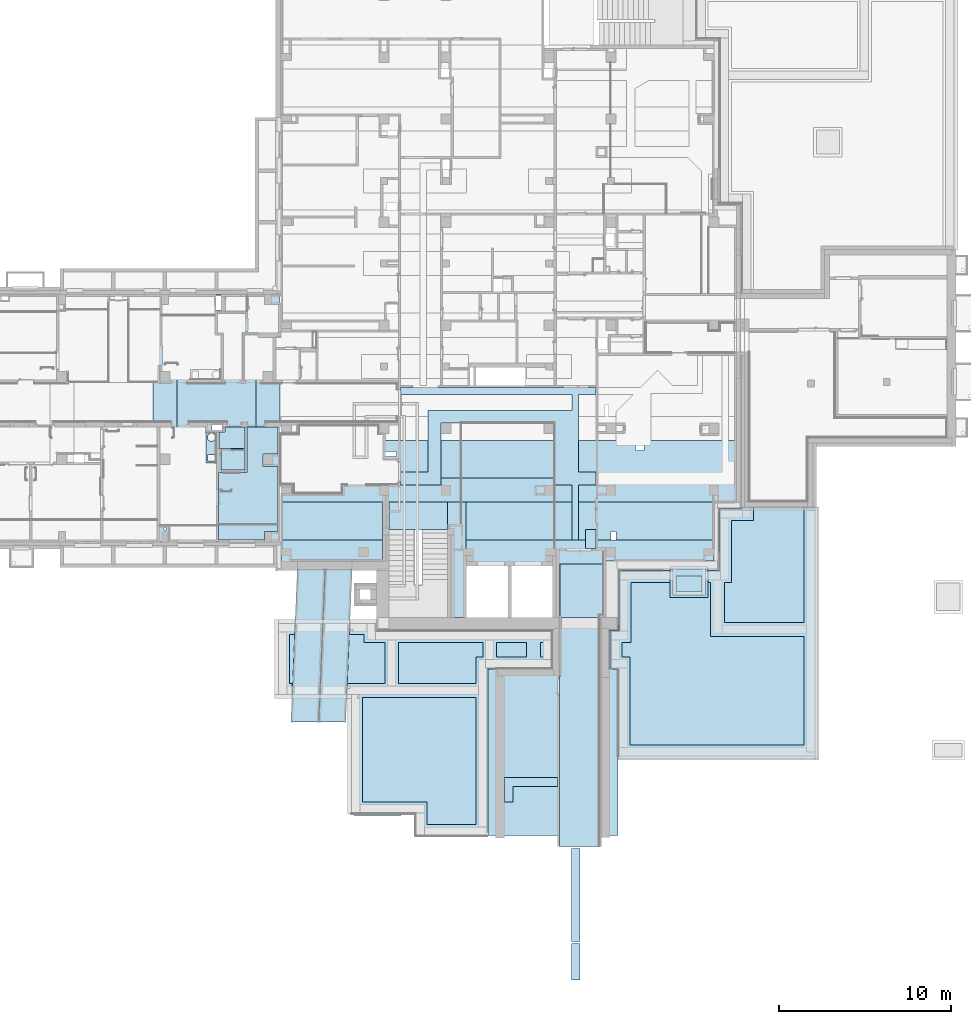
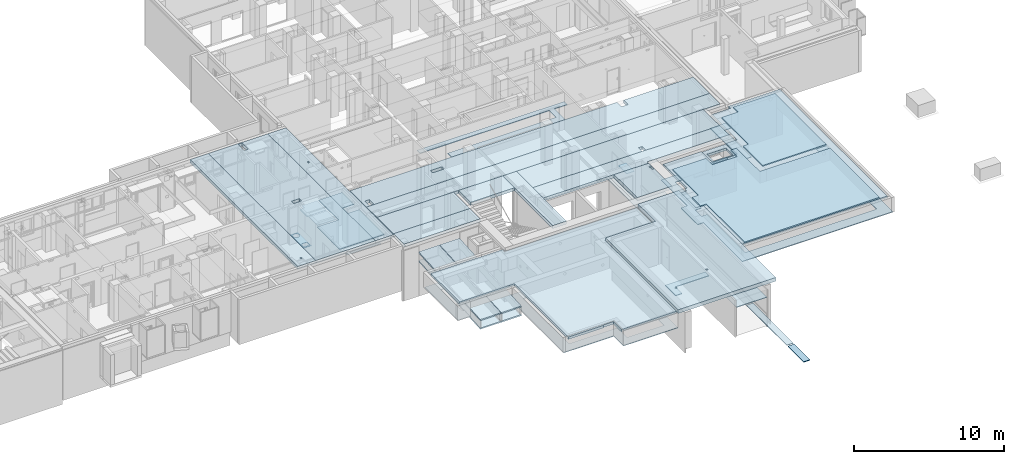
# One storey, part 5 of 84: 39 slabs, 12 openings.
"""IFC4 building model written with IfcOpenShell, lengths in metres."""

from ifc_helpers import new_model, entity, si_unit, converted_unit, derived_unit, frame, frame_2d, origin, origin_with_axes, place, context, subcontext, project, spatial, polyline, rectangle, circle, outline, extrude, material, element, save


model = new_model("IFC4")

# Units and contexts
model_context = context("Model", 3, precision=1e-05, world=origin())
body_context = subcontext(model_context, "Body", "Model", "MODEL_VIEW")
ifc_project = project(units=[si_unit("LENGTHUNIT", "METRE"), si_unit("AREAUNIT", "SQUARE_METRE"), si_unit("VOLUMEUNIT", "CUBIC_METRE"), si_unit("MASSUNIT", "GRAM", prefix="KILO"), converted_unit("PLANEANGLEUNIT", "DEGREE", entity("IfcPlaneAngleMeasure", 0.0174532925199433), si_unit("PLANEANGLEUNIT", "RADIAN"), dimensions=[0, 0, 0, 0, 0, 0, 0]), derived_unit("THERMALTRANSMITTANCEUNIT", [(si_unit("POWERUNIT", "WATT"), 1), (si_unit("THERMODYNAMICTEMPERATUREUNIT", "KELVIN"), -1), (si_unit("LENGTHUNIT", "METRE"), -2)]), derived_unit("VOLUMETRICFLOWRATEUNIT", [(si_unit("LENGTHUNIT", "METRE"), 3), (converted_unit("TIMEUNIT", "hour", entity("IfcTimeMeasure", 3600.0), si_unit("TIMEUNIT", "SECOND"), dimensions=[0, 0, 1, 0, 0, 0, 0]), -1), (si_unit("LENGTHUNIT", "METRE"), -1)])], contexts=[model_context])

# Site, building, storey
site_placement = place(None, origin())
site = spatial("IfcSite", under=ifc_project, at=site_placement, Name="3. ASŘ", CompositionType="ELEMENT")
building_placement = place(site_placement, origin())
building = spatial("IfcBuilding", under=site, at=building_placement, Name="Pavilon C", CompositionType="ELEMENT")
storey_placement = place(building_placement, frame((0.0, 0.0, -3.3)))
storey = spatial("IfcBuildingStorey", under=building, at=storey_placement, Name="Půdorys 1.PP", CompositionType="ELEMENT", Elevation=-3.3)

# Slabs
ifc_material_1 = material(Name="PREFA ŽB ENERGOKANÁL")
slab_1_placement = place(storey_placement, frame((26.9593908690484, -9.90045846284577, 1.62)))
element("IfcSlab", 1, at=slab_1_placement, inside=storey, material=ifc_material_1, PredefinedType="FLOOR", context=body_context, shape_type="SweptSolid", body=[
    extrude(outline(polyline([(0.0, 0.0), (1.55133850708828, 0.0), (1.92151557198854, 8.90545846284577), (0.37017706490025, 8.90545846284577), (0.0, 0.0)])), origin_with_axes(), (0.0, 0.0, 1.0), 0.1),
])
ifc_material_2 = material(Name="PREFA ŽB ENERGOKANÁL")
slab_2_placement = place(storey_placement, frame((25.3379919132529, -9.90045846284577, 1.62)))
element("IfcSlab", 2, at=slab_2_placement, inside=storey, material=ifc_material_2, PredefinedType="FLOOR", context=body_context, shape_type="SweptSolid", body=[
    extrude(outline(polyline([(0.0, 0.0), (1.6013816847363, 0.0), (1.97155874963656, 8.90545846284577), (0.370177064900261, 8.90545846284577), (0.369257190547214, 8.88332877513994), (0.0, 0.0)])), origin_with_axes(), (0.0, 0.0, 1.0), 0.1),
])
ifc_material_3 = material(Name="PZD")
slab_3_placement = place(storey_placement, frame((24.75, 0.699999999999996, 2.95)))
element("IfcSlab", 3, at=slab_3_placement, inside=storey, material=ifc_material_3, PredefinedType="FLOOR", context=body_context, shape_type="SweptSolid", body=[
    extrude(rectangle(XDim=2.2, YDim=5.9, at=frame_2d((2.95, -1.1), x_axis=(0.0, -1.0))), frame((0.0, 2.2, 0.0), z_axis=(0.0, 0.0, 1.0), x_axis=(1.0, 0.0, 0.0)), (0.0, 0.0, 1.0), 0.25),
])
ifc_material_4 = material(Name="DZH")
slab_4_placement = place(storey_placement, frame((31.05, 1.3001, 2.95)))
element("IfcSlab", 4, at=slab_4_placement, inside=storey, material=ifc_material_4, PredefinedType="FLOOR", context=body_context, shape_type="SweptSolid", body=[
    extrude(rectangle(XDim=1.5999, YDim=3.39999999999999, at=frame_2d((-1.69999999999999, 0.799949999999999), x_axis=(0.0, 1.0))), frame((3.39999999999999, 0.0, 0.0), z_axis=(0.0, 0.0, 1.0), x_axis=(1.0, 0.0, 0.0)), (0.0, 0.0, 1.0), 0.25),
])
ifc_material_5 = material(Name="RZT")
slab_5_placement = place(storey_placement, frame((24.75, -0.700000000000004, 2.95)))
element("IfcSlab", 5, at=slab_5_placement, inside=storey, material=ifc_material_5, PredefinedType="FLOOR", context=body_context, shape_type="SweptSolid", body=[
    extrude(rectangle(XDim=1.4, YDim=5.9, at=frame_2d((-2.95, 0.700000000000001), x_axis=(0.0, 1.0))), frame((5.9, 0.0, 0.0), z_axis=(0.0, 0.0, 1.0), x_axis=(1.0, 0.0, 0.0)), (0.0, 0.0, 1.0), 0.25),
])
ifc_material_6 = material(Name="VĚNEC")
slab_6_placement = place(storey_placement, frame((34.45, -3.8, 2.95)))
element("IfcSlab", 6, at=slab_6_placement, inside=storey, material=ifc_material_6, PredefinedType="FLOOR", context=body_context, shape_type="SweptSolid", body=[
    extrude(rectangle(XDim=6.7, YDim=1.07, at=frame_2d((-0.535, 3.35), x_axis=(0.0, 1.0))), frame((1.07, 0.0, 0.0), z_axis=(0.0, 0.0, 1.0), x_axis=(1.0, 0.0, 0.0)), (0.0, 0.0, 1.0), 0.25),
])
ifc_material_7 = material(Name="RZT")
slab_7_placement = place(storey_placement, frame((35.52, -0.700000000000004, 2.95)))
element("IfcSlab", 7, at=slab_7_placement, inside=storey, material=ifc_material_7, PredefinedType="FLOOR", context=body_context, shape_type="SweptSolid", body=[
    extrude(outline(polyline([(14.43, 0.180000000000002), (14.43, 1.4), (0.0, 1.4), (0.0, 1.59161572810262e-15), (8.13, 0.0), (8.13, 0.180000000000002), (14.43, 0.180000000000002)])), origin_with_axes(), (0.0, 0.0, 1.0), 0.25),
])

# Slab, opening
ifc_material_8 = material(Name="PZD")
slab_8_placement = place(storey_placement, frame((35.52, 0.699999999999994, 2.95)))
slab_8 = element("IfcSlab", 8, at=slab_8_placement, inside=storey, material=ifc_material_8, PredefinedType="FLOOR", context=body_context, shape_type="SweptSolid", body=[
    extrude(rectangle(XDim=14.43, YDim=2.2, at=frame_2d((-7.215, -1.1), x_axis=(-1.0, 0.0))), frame((14.43, 2.2, 0.0), z_axis=(0.0, 0.0, 1.0), x_axis=(1.0, 0.0, 0.0)), (0.0, 0.0, 1.0), 0.25),
])
opening_1_placement = place(slab_8_placement, frame((8.43, -1.70530256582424e-15, 0.0)))
element("IfcOpeningElement", 9, at=opening_1_placement, cuts=slab_8, Name="Prostup deskou", ObjectType="Opening", context=body_context, shape_type="SweptSolid", body=[
    extrude(rectangle(XDim=0.5, YDim=0.3, at=frame_2d((7.27595761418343e-15, 0.0), x_axis=(0.0, -1.0))), frame((0.149999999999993, 0.25, 0.0), z_axis=(0.0, 0.0, 1.0), x_axis=(1.0, 0.0, 0.0)), (0.0, 0.0, 1.0), 0.25),
])

# Slab
ifc_material_9 = material(Name="RZT")
slab_9_placement = place(storey_placement, frame((24.75, 2.89999999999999, 2.95)))
element("IfcSlab", 10, at=slab_9_placement, inside=storey, material=ifc_material_9, PredefinedType="FLOOR", context=body_context, shape_type="SweptSolid", body=[
    extrude(rectangle(XDim=1.4, YDim=26.5, at=frame_2d((-13.25, 0.700000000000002), x_axis=(0.0, 1.0))), frame((26.5, 0.0, 0.0), z_axis=(0.0, 0.0, 1.0), x_axis=(1.0, 0.0, 0.0)), (0.0, 0.0, 1.0), 0.25),
])

# Slab, openings
ifc_material_10 = material(Name="PZD")
slab_10_placement = place(storey_placement, frame((24.75, 4.3, 2.95)))
slab_10 = element("IfcSlab", 11, at=slab_10_placement, inside=storey, material=ifc_material_10, PredefinedType="FLOOR", context=body_context, shape_type="SweptSolid", body=[
    extrude(rectangle(XDim=26.5, YDim=2.2, at=frame_2d((13.25, 1.1), x_axis=(1.0, 0.0))), origin_with_axes(), (0.0, 0.0, 1.0), 0.25),
])
opening_2_placement = place(slab_10_placement, frame((20.63, 1.6, 0.0)))
element("IfcOpeningElement", 12, at=opening_2_placement, cuts=slab_10, Name="Prostup deskou", ObjectType="Opening", context=body_context, shape_type="SweptSolid", body=[
    extrude(rectangle(XDim=0.6, YDim=0.5, at=frame_2d((7.27595761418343e-15, 0.0), x_axis=(0.0, -1.0))), frame((0.249999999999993, 0.3, 0.0), z_axis=(0.0, 0.0, 1.0), x_axis=(1.0, 0.0, 0.0)), (0.0, 0.0, 1.0), 0.25),
])
opening_3_placement = place(slab_10_placement, frame((0.249999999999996, 0.0499999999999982, 0.0)))
element("IfcOpeningElement", 13, at=opening_3_placement, cuts=slab_10, Name="Prostup deskou", ObjectType="Opening", context=body_context, shape_type="SweptSolid", body=[
    extrude(rectangle(XDim=0.6, YDim=0.35, at=frame_2d((3.63797880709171e-15, 0.0), x_axis=(0.0, -1.0))), frame((0.174999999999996, 0.3, 0.0), z_axis=(0.0, 0.0, 1.0), x_axis=(1.0, 0.0, 0.0)), (0.0, 0.0, 1.0), 0.25),
])
opening_4_placement = place(slab_10_placement, frame((5.825, 1.25, 0.0)))
element("IfcOpeningElement", 14, at=opening_4_placement, cuts=slab_10, Name="Prostup deskou", ObjectType="Opening", context=body_context, shape_type="SweptSolid", body=[
    extrude(rectangle(XDim=0.3, YDim=0.9, at=frame_2d((3.63797880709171e-15, -9.09494701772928e-16), x_axis=(0.0, -1.0))), frame((0.449999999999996, 0.150000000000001, 0.0), z_axis=(0.0, 0.0, 1.0), x_axis=(1.0, 0.0, 0.0)), (0.0, 0.0, 1.0), 0.25),
])

ifc_material_11 = material(Name="PZD")
slab_11_placement = place(storey_placement, frame((18.7, 0.600000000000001, 2.95)))
slab_11 = element("IfcSlab", 15, at=slab_11_placement, inside=storey, material=ifc_material_11, PredefinedType="FLOOR", context=body_context, shape_type="SweptSolid", body=[
    extrude(rectangle(XDim=14.4, YDim=4.60000000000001, at=frame_2d((2.3, -7.2), x_axis=(-5.05274834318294e-16, -1.0))), frame((7.27595761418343e-15, 14.4, 0.0), z_axis=(0.0, 0.0, 1.0), x_axis=(1.0, 0.0, 0.0)), (0.0, 0.0, 1.0), 0.25),
])
opening_5_placement = place(slab_11_placement, frame((2.275, 13.5, 0.0)))
element("IfcOpeningElement", 16, at=opening_5_placement, cuts=slab_11, Name="Prostup deskou", ObjectType="Opening", context=body_context, shape_type="SweptSolid", body=[
    extrude(rectangle(XDim=0.83, YDim=0.3, at=frame_2d((0.0, -1.81898940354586e-15), x_axis=(0.0, -1.0))), frame((0.15, 0.415000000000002, 0.0), z_axis=(0.0, 0.0, 1.0), x_axis=(1.0, 0.0, 0.0)), (0.0, 0.0, 1.0), 0.25),
])
opening_6_placement = place(slab_11_placement, frame((2.05000000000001, 6.5, 0.0)))
element("IfcOpeningElement", 17, at=opening_6_placement, cuts=slab_11, Name="Prostup deskou", ObjectType="Opening", context=body_context, shape_type="SweptSolid", body=[
    extrude(rectangle(XDim=0.3, YDim=0.6, at=frame_2d((0.0, 0.0), x_axis=(0.0, -1.0))), frame((0.3, 0.15, 0.0), z_axis=(0.0, 0.0, 1.0), x_axis=(1.0, 0.0, 0.0)), (0.0, 0.0, 1.0), 0.25),
])

# Slab, opening
ifc_material_12 = material(Name="RZT")
slab_12_placement = place(storey_placement, frame((17.3, 0.600000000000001, 2.95)))
slab_12 = element("IfcSlab", 18, at=slab_12_placement, inside=storey, material=ifc_material_12, PredefinedType="FLOOR", context=body_context, shape_type="SweptSolid", body=[
    extrude(rectangle(XDim=1.4, YDim=14.4, at=frame_2d((0.700000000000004, 7.2), x_axis=(1.0, 0.0))), origin_with_axes(), (0.0, 0.0, 1.0), 0.25),
])
opening_7_placement = place(slab_12_placement, frame((0.625077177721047, 0.675077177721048, 0.0)))
element("IfcOpeningElement", 19, at=opening_7_placement, cuts=slab_12, Name="Prostup deskou", ObjectType="Opening", context=body_context, shape_type="SweptSolid", body=[
    extrude(circle(Radius=0.075, at=frame_2d((3.63797880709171e-15, -4.54747350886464e-16), x_axis=(1.0, 0.0))), frame((0.0749228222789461, 0.0749228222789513, 0.0), z_axis=(0.0, 0.0, 1.0), x_axis=(1.0, 0.0, 0.0)), (0.0, 0.0, 1.0), 0.25),
])

ifc_material_13 = material(Name="RZT")
slab_13_placement = place(storey_placement, frame((23.3, 0.600000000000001, 2.95)))
slab_13 = element("IfcSlab", 20, at=slab_13_placement, inside=storey, material=ifc_material_13, PredefinedType="FLOOR", context=body_context, shape_type="SweptSolid", body=[
    extrude(rectangle(XDim=1.4, YDim=14.4, at=frame_2d((0.700000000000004, 7.2), x_axis=(1.0, 0.0))), origin_with_axes(), (0.0, 0.0, 1.0), 0.25),
])
opening_8_placement = place(slab_13_placement, frame((0.625077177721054, 10.100077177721, 0.0)))
element("IfcOpeningElement", 21, at=opening_8_placement, cuts=slab_13, Name="Prostup deskou", ObjectType="Opening", context=body_context, shape_type="SweptSolid", body=[
    extrude(circle(Radius=0.0749999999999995, at=frame_2d((7.27595761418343e-15, -1.81898940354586e-15), x_axis=(1.0, 0.0))), frame((0.0749228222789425, 0.0749228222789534, 0.0), z_axis=(0.0, 0.0, 1.0), x_axis=(1.0, 0.0, 0.0)), (0.0, 0.0, 1.0), 0.25),
])

# Slabs
ifc_material_14 = material(Name="ZELEZOBETONOVÁ KCE")
slab_14_placement = place(storey_placement, frame((26.9593908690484, -9.90045846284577, 2.32)))
element("IfcSlab", 22, at=slab_14_placement, inside=storey, material=ifc_material_14, PredefinedType="FLOOR", context=body_context, shape_type="SweptSolid", body=[
    extrude(outline(polyline([(0.0, 0.0), (1.55133850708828, 0.0), (1.92151557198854, 8.90545846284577), (0.37017706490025, 8.90545846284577), (0.0, 0.0)])), origin_with_axes(), (0.0, 0.0, 1.0), 0.1),
])
ifc_material_15 = material(Name="ZELEZOBETONOVÁ KCE")
slab_15_placement = place(storey_placement, frame((25.3379919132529, -9.90045846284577, 2.32)))
element("IfcSlab", 23, at=slab_15_placement, inside=storey, material=ifc_material_15, PredefinedType="FLOOR", context=body_context, shape_type="SweptSolid", body=[
    extrude(outline(polyline([(0.0, 0.0), (1.60138168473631, 0.0), (1.97155874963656, 8.90545846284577), (0.370177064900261, 8.90545846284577), (0.369257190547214, 8.88332877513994), (0.0, 0.0)])), origin_with_axes(), (0.0, 0.0, 1.0), 0.1),
])

# Slab, opening
ifc_material_16 = material(Name="PZD")
slab_16_placement = place(storey_placement, frame((40.98, -3.80000000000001, 2.95)))
slab_16 = element("IfcSlab", 24, at=slab_16_placement, inside=storey, material=ifc_material_16, PredefinedType="FLOOR", context=body_context, shape_type="SweptSolid", body=[
    extrude(rectangle(XDim=3.10000000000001, YDim=2.67, at=frame_2d((1.335, -1.55), x_axis=(0.0, -1.0))), frame((0.0, 3.10000000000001, 0.0), z_axis=(0.0, 0.0, 1.0), x_axis=(1.0, 0.0, 0.0)), (0.0, 0.0, 1.0), 0.25),
])
opening_9_placement = place(slab_16_placement, frame((2.49500000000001, 2.34999999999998, 0.0)))
element("IfcOpeningElement", 25, at=opening_9_placement, cuts=slab_16, Name="Prostup deskou", ObjectType="Opening", context=body_context, shape_type="SweptSolid", body=[
    extrude(rectangle(XDim=0.4, YDim=0.15, at=frame_2d((0.0, 0.0), x_axis=(0.0, -1.0))), frame((0.075, 0.2, 0.0), z_axis=(0.0, 0.0, 1.0), x_axis=(1.0, 0.0, 0.0)), (0.0, 0.0, 1.0), 0.25),
])

# Slab, openings
ifc_material_17 = material(Name="ZELEZOBETONOVÁ KCE")
slab_17_placement = place(storey_placement, frame((36.8, -16.495, 2.9)))
slab_17 = element("IfcSlab", 26, at=slab_17_placement, inside=storey, material=ifc_material_17, PredefinedType="FLOOR", context=body_context, shape_type="SweptSolid", body=[
    extrude(outline(polyline([(7.0, 12.02), (3.85, 12.02), (3.85, 9.695), (0.0, 9.695), (0.0, 0.0), (7.55, 0.0), (7.55, 9.695), (7.0, 9.695), (7.0, 12.02)])), origin_with_axes(), (0.0, 0.0, 1.0), 0.3),
])
opening_10_placement = place(slab_17_placement, frame((1.07578082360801, 2.19416621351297, 0.0)))
element("IfcOpeningElement", 27, at=opening_10_placement, cuts=slab_17, Name="Prostup deskou", ObjectType="Opening", context=body_context, shape_type="SweptSolid", body=[
    extrude(circle(Radius=0.0749999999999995, at=frame_2d((1.45519152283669e-14, -7.27595761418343e-15), x_axis=(1.0, 0.0))), frame((0.0749228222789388, 0.0749228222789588, 0.0), z_axis=(0.0, 0.0, 1.0), x_axis=(1.0, 0.0, 0.0)), (0.0, 0.0, 1.0), 0.3),
])
opening_11_placement = place(slab_17_placement, frame((3.94916621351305, 3.04507717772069, 0.0)))
element("IfcOpeningElement", 28, at=opening_11_placement, cuts=slab_17, Name="Prostup deskou", ObjectType="Opening", context=body_context, shape_type="SweptSolid", body=[
    extrude(circle(Radius=0.0749999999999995, at=frame_2d((7.27595761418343e-15, -3.63797880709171e-15), x_axis=(1.0, 0.0))), frame((0.0749228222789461, 0.0749228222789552, 0.0), z_axis=(0.0, 0.0, 1.0), x_axis=(1.0, 0.0, 0.0)), (0.0, 0.0, 1.0), 0.3),
])

# Slabs
ifc_material_18 = material(Name="Kuchyňská deska")
slab_18_placement = place(storey_placement, frame((20.4, 5.175, 0.82)))
element("IfcSlab", 29, at=slab_18_placement, inside=storey, material=ifc_material_18, PredefinedType="FLOOR", context=body_context, shape_type="SweptSolid", body=[
    extrude(outline(polyline([(0.0, 0.0), (0.6, 0.0), (0.600000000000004, 1.8), (3.63797880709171e-15, 1.8), (0.0, 0.0)]), holes=[polyline([(0.24047161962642, 1.72216294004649), (0.269978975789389, 1.72803231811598), (0.3, 1.73), (0.330021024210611, 1.72803231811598), (0.35952838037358, 1.72216294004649), (0.38801718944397, 1.7124922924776), (0.415, 1.69918584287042), (0.440015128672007, 1.68247126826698), (0.462634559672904, 1.66263455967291), (0.482471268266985, 1.64001512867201), (0.499185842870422, 1.615), (0.512492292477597, 1.58801718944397), (0.522162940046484, 1.55952838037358), (0.528032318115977, 1.53002102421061), (0.53, 1.5), (0.528032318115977, 1.46997897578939), (0.522162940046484, 1.44047161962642), (0.512492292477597, 1.41198281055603), (0.499185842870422, 1.385), (0.482471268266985, 1.35998487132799), (0.462634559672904, 1.33736544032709), (0.440015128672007, 1.31752873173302), (0.415, 1.30081415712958), (0.38801718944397, 1.2875077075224), (0.35952838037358, 1.27783705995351), (0.330021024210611, 1.27196768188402), (0.3, 1.27), (0.269978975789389, 1.27196768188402), (0.24047161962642, 1.27783705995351), (0.21198281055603, 1.2875077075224), (0.185, 1.30081415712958), (0.159984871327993, 1.31752873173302), (0.137365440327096, 1.33736544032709), (0.117528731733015, 1.35998487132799), (0.100814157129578, 1.385), (0.0875077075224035, 1.41198281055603), (0.0778370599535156, 1.44047161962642), (0.0719676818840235, 1.46997897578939), (0.07, 1.5), (0.0719676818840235, 1.53002102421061), (0.0778370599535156, 1.55952838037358), (0.0875077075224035, 1.58801718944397), (0.100814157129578, 1.615), (0.117528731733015, 1.64001512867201), (0.137365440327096, 1.66263455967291), (0.159984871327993, 1.68247126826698), (0.185, 1.69918584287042), (0.21198281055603, 1.7124922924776), (0.24047161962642, 1.72216294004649)]), polyline([(0.509387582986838, 0.475404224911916), (0.513922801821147, 0.469569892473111), (0.517264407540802, 0.463114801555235), (0.519310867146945, 0.456235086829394), (0.52, 0.44913978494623), (0.52, 0.150860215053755), (0.519310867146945, 0.143764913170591), (0.517264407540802, 0.13688519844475), (0.513922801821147, 0.130430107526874), (0.509387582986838, 0.12459577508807), (0.503796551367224, 0.119559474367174), (0.497319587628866, 0.115474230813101), (0.490153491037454, 0.112464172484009), (0.482515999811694, 0.110620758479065), (0.474639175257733, 0.109999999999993), (0.125360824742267, 0.109999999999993), (0.117484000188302, 0.110620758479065), (0.109846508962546, 0.112464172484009), (0.102680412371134, 0.115474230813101), (0.0962034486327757, 0.119559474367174), (0.0906124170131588, 0.12459577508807), (0.0860771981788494, 0.130430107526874), (0.0827355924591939, 0.13688519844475), (0.0806891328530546, 0.143764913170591), (0.08, 0.150860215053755), (0.08, 0.44913978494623), (0.0806891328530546, 0.456235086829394), (0.0827355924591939, 0.463114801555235), (0.0860771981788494, 0.469569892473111), (0.0906124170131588, 0.475404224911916), (0.0962034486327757, 0.480440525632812), (0.102680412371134, 0.484525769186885), (0.109846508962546, 0.487535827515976), (0.117484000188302, 0.489379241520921), (0.125360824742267, 0.489999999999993), (0.474639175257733, 0.489999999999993), (0.482515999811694, 0.489379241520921), (0.490153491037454, 0.487535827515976), (0.497319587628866, 0.484525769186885), (0.503796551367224, 0.480440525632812), (0.509387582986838, 0.475404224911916)])]), origin_with_axes(), (0.0, 0.0, 1.0), 0.03),
])
ifc_material_19 = material(Name="ZELEZOBETONOVÁ KCE")
slab_19_placement = place(storey_placement, frame((47.55, -2.49, 1.65)))
element("IfcSlab", 30, at=slab_19_placement, inside=storey, material=ifc_material_19, PredefinedType="FLOOR", context=body_context, shape_type="SweptSolid", body=[
    extrude(rectangle(XDim=1.495, YDim=1.9, at=frame_2d((0.95, -0.7475), x_axis=(0.0, -1.0))), frame((0.0, 1.495, 0.0), z_axis=(0.0, 0.0, 1.0), x_axis=(1.0, 0.0, 0.0)), (0.0, 0.0, 1.0), 0.2),
])
ifc_material_20 = material(Name="ŽB ZÁKLADOVÁ DESKA")
slab_20_placement = place(storey_placement, frame((24.75, -16.345, 2.8)))
element("IfcSlab", 31, at=slab_20_placement, inside=storey, material=ifc_material_20, PredefinedType="BASESLAB", context=body_context, shape_type="SweptSolid", body=[
    extrude(outline(polyline([(7.77, 0.0), (12.03, 0.0), (12.03, 9.56500000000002), (15.78, 9.56500000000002), (15.78, 11.825), (5.58, 11.825), (5.58, 12.045), (0.0, 12.045), (0.0, 8.19500000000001), (4.25, 8.195), (4.25, 1.01500000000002), (6.98, 1.01500000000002), (6.98, 1.06500000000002), (7.77, 1.06500000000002), (7.77, 0.0)])), origin_with_axes(), (0.0, 0.0, 1.0), 0.2),
])
ifc_material_21 = material(Name="ŽB ZÁKLADOVÁ DESKA")
slab_21_placement = place(storey_placement, frame((43.77, -11.75, 2.8)))
element("IfcSlab", 32, at=slab_21_placement, inside=storey, material=ifc_material_21, PredefinedType="BASESLAB", context=body_context, shape_type="SweptSolid", body=[
    extrude(outline(polyline([(0.6, 7.5), (0.6, 7.23), (0.0, 7.23), (0.0, 4.97000000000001), (0.6, 4.97000000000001), (0.6, 0.0), (11.9300000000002, 0.0), (11.93, 14.38), (7.96, 14.38), (7.96, 14.1), (6.43, 14.1), (6.43, 12.37), (6.45, 12.37), (6.45, 11.77), (6.5, 11.77), (6.5, 10.71), (5.7, 10.71), (5.7, 9.24000000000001), (3.76, 9.24000000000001), (3.76, 10.71), (0.81, 10.71), (0.81, 7.5), (0.6, 7.5)])), origin_with_axes(), (0.0, 0.0, 1.0), 0.2),
])

# Slab, opening
ifc_material_22 = material(Name="ZELEZOBETONOVÁ KCE")
slab_22_placement = place(storey_placement, frame((47.55, -2.49000000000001, 2.7)))
slab_22 = element("IfcSlab", 33, at=slab_22_placement, inside=storey, material=ifc_material_22, PredefinedType="FLOOR", context=body_context, shape_type="SweptSolid", body=[
    extrude(rectangle(XDim=1.495, YDim=1.9, at=frame_2d((0.95, -0.747500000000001), x_axis=(0.0, -1.0))), frame((0.0, 1.495, 0.0), z_axis=(0.0, 0.0, 1.0), x_axis=(1.0, 0.0, 0.0)), (0.0, 0.0, 1.0), 0.2),
])
opening_12_placement = place(slab_22_placement, frame((0.2, 0.200000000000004, 0.0)))
element("IfcOpeningElement", 34, at=opening_12_placement, cuts=slab_22, Name="Prostup deskou", ObjectType="Opening", context=body_context, shape_type="SweptSolid", body=[
    extrude(rectangle(XDim=1.5, YDim=0.900000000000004, at=frame_2d((7.27595761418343e-15, 0.0), x_axis=(1.0, 0.0))), frame((0.749999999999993, 0.450000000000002, 0.0), z_axis=(0.0, 0.0, 1.0), x_axis=(1.0, 0.0, 0.0)), (0.0, 0.0, 1.0), 0.2),
])

# Slabs
ifc_material_23 = material(Name="Demontáž +montáž podhledu FEAL")
slab_23_placement = place(storey_placement, frame((37.75, -14.5300000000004, 2.79)))
element("IfcSlab", 35, at=slab_23_placement, inside=storey, material=ifc_material_23, PredefinedType="FLOOR", context=body_context, shape_type="SweptSolid", body=[
    extrude(outline(polyline([(3.1, 1.4), (0.0, 1.4), (0.0, 0.0), (0.5, 0.0), (0.5, 0.9), (3.1, 0.9), (3.1, 1.4)])), origin_with_axes(), (0.0, 0.0, 1.0), 0.05),
])
ifc_material_24 = material(Name="Demontáž +montáž kazetového podh")
slab_24_placement = place(storey_placement, frame((42.475, 0.199999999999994, 2.16)))
element("IfcSlab", 36, at=slab_24_placement, inside=storey, material=ifc_material_24, PredefinedType="FLOOR", context=body_context, shape_type="SweptSolid", body=[
    extrude(rectangle(XDim=0.6, YDim=1.10011386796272, at=frame_2d((0.3, 0.55005693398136), x_axis=(1.0, -4.736951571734e-17))), frame((0.0, 2.8421709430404e-17, 0.0), z_axis=(0.0, 0.0, 1.0), x_axis=(1.0, 0.0, 0.0)), (0.0, 0.0, 1.0), 0.05),
])
ifc_material_25 = material(Name="Demontáž +montáž kazetového podh")
slab_25_placement = place(storey_placement, frame((41.65, -22.65, 2.3)))
element("IfcSlab", 37, at=slab_25_placement, inside=storey, material=ifc_material_25, PredefinedType="FLOOR", context=body_context, shape_type="SweptSolid", body=[
    extrude(rectangle(XDim=0.5, YDim=5.4, at=frame_2d((0.25, 2.7), x_axis=(1.0, 0.0))), origin_with_axes(), (0.0, 0.0, 1.0), 0.05),
])
ifc_material_26 = material(Name="Demontáž +montáž podhledu FEAL")
slab_26_placement = place(storey_placement, frame((41.65, -24.9, 2.3)))
element("IfcSlab", 38, at=slab_26_placement, inside=storey, material=ifc_material_26, PredefinedType="FLOOR", context=body_context, shape_type="SweptSolid", body=[
    extrude(rectangle(XDim=0.5, YDim=2.125, at=frame_2d((0.25, 1.0625), x_axis=(1.0, 0.0))), origin_with_axes(), (0.0, 0.0, 1.0), 0.05),
])
ifc_material_27 = material(Name="Demontáž +montáž kazetového podh")
slab_27_placement = place(storey_placement, frame((31.7, 0.199999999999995, 2.16)))
element("IfcSlab", 39, at=slab_27_placement, inside=storey, material=ifc_material_27, PredefinedType="FLOOR", context=body_context, shape_type="SweptSolid", body=[
    extrude(outline(polyline([(10.3751091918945, 4.45), (10.3751091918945, 8.97499999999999), (11.375, 8.97499999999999), (11.375, 9.37499999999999), (0.0, 9.37499999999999), (3.63797880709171e-15, 8.97499999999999), (9.97510919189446, 8.97499999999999), (9.97510919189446, 8.05), (1.6, 8.05), (1.6, 4.45), (0.0, 4.45), (0.0, 3.7), (2.35, 3.7), (2.35, 7.3), (8.95, 7.3), (8.95, 3.7), (9.97510919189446, 3.7), (9.97510919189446, 2.8421709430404e-17), (10.3751091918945, 0.0), (10.3751091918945, 3.7), (11.375, 3.7), (11.375, 4.45), (10.3751091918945, 4.45)])), origin_with_axes(), (0.0, 0.0, 1.0), 0.05),
])
ifc_material_28 = material(Name="Kazetový podhled bílý 0,6×0,6")
slab_28_placement = place(storey_placement, frame((40.95, -17.125, 2.3)))
element("IfcSlab", 40, at=slab_28_placement, inside=storey, material=ifc_material_28, PredefinedType="FLOOR", context=body_context, shape_type="SweptSolid", body=[
    extrude(outline(polyline([(0.0, 17.2), (0.0, 13.425), (0.1, 13.425), (0.1, 9.925), (0.0, 9.925), (0.0, 0.0), (2.35, 1.45519152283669e-14), (2.35, 13.425), (2.6, 13.425), (2.6, 17.2), (0.0, 17.2)])), origin_with_axes(), (0.0, 0.0, 1.0), 0.05),
])
ifc_material_29 = material(Name="Kazetový podhled bílý 0,6×0,6")
slab_29_placement = place(storey_placement, frame((21.25, 4.775, 2.6)))
element("IfcSlab", 41, at=slab_29_placement, inside=storey, material=ifc_material_29, PredefinedType="FLOOR", context=body_context, shape_type="SweptSolid", body=[
    extrude(rectangle(XDim=1.4, YDim=1.15, at=frame_2d((0.7, 0.575), x_axis=(1.0, 0.0))), origin_with_axes(), (0.0, 0.0, 1.0), 0.05),
])
ifc_material_30 = material(Name="Kazetový podhled bílý 0,6×0,6")
slab_30_placement = place(storey_placement, frame((21.15, 6.025, 2.6)))
element("IfcSlab", 42, at=slab_30_placement, inside=storey, material=ifc_material_30, PredefinedType="FLOOR", context=body_context, shape_type="SweptSolid", body=[
    extrude(outline(polyline([(1.5, 0.0), (1.5, 1.25), (0.35, 1.25), (0.35, 0.950000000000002), (0.0, 0.950000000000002), (0.0, 0.0), (1.5, 0.0)])), origin_with_axes(), (0.0, 0.0, 1.0), 0.05),
])
ifc_material_31 = material(Name="Kazetový podhled hyg. 0,6×0,6")
slab_31_placement = place(storey_placement, frame((21.125, 1.625, 2.6)))
element("IfcSlab", 43, at=slab_31_placement, inside=storey, material=ifc_material_31, PredefinedType="FLOOR", context=body_context, shape_type="SweptSolid", body=[
    extrude(outline(polyline([(3.45, 3.35), (2.575, 3.35), (2.575, 4.075), (3.45, 4.075), (3.45, 5.65), (1.65, 5.65), (1.65, 3.0), (0.0, 3.0), (0.0, 0.0), (3.45, 0.0), (3.45, 3.35)])), origin_with_axes(), (0.0, 0.0, 1.0), 0.05),
])
ifc_material_32 = material(Name="Kazetový podhled hyg. 0,6×0,6")
slab_32_placement = place(storey_placement, frame((21.125, 0.7, 2.7)))
element("IfcSlab", 44, at=slab_32_placement, inside=storey, material=ifc_material_32, PredefinedType="FLOOR", context=body_context, shape_type="SweptSolid", body=[
    extrude(outline(polyline([(0.0, 0.884999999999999), (0.0, 2.27373675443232e-16), (2.675, 0.0), (2.675, 0.499999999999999), (3.45, 0.499999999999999), (3.45, 0.884999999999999), (0.0, 0.884999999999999)])), origin_with_axes(), (0.0, 0.0, 1.0), 0.05),
])
ifc_material_33 = material(Name="BETONOVÁ KCE")
slab_33_placement = place(storey_placement, frame((43.91, -12.025, 1.75)))
element("IfcSlab", 45, at=slab_33_placement, inside=storey, material=ifc_material_33, Name="Podkladní beton", PredefinedType="FLOOR", context=body_context, shape_type="SweptSolid", body=[
    extrude(outline(polyline([(3.64, 10.95), (0.495, 10.95), (0.495, 7.47), (0.0, 7.47), (0.0, 5.22044723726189), (0.44, 5.22499999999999), (0.44, 0.8), (0.44, 0.0), (12.0650000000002, 0.0), (12.0650000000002, 14.655), (11.2650000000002, 14.655), (11.2650000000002, 7.925), (6.64, 7.92500000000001), (6.64, 10.25), (7.065, 10.25), (7.065, 13.85), (8.345, 13.85), (8.345, 14.655), (7.645, 14.655), (7.645, 14.55), (6.345, 14.55), (6.345, 10.95), (5.54, 10.95), (5.54, 10.25), (5.84, 10.25), (5.84, 7.125), (11.2650000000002, 7.125), (11.2650000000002, 0.8), (1.14, 0.8), (1.14, 5.92500000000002), (0.695, 5.92500000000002), (0.695, 6.77), (1.195, 6.77), (1.195, 10.25), (3.64, 10.25), (3.64, 10.95)])), origin_with_axes(), (0.0, 0.0, 1.0), 0.05),
])
ifc_material_34 = material(Name="BETONOVÁ KCE")
slab_34_placement = place(storey_placement, frame((44.455, -11.375, 2.7)))
element("IfcSlab", 46, at=slab_34_placement, inside=storey, material=ifc_material_34, Name="Podkladní beton", PredefinedType="FLOOR", context=body_context, shape_type="SweptSolid", body=[
    extrude(outline(polyline([(3.095, 9.75000000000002), (0.5, 9.75000000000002), (0.5, 6.27), (0.0, 6.27), (0.0, 5.12500000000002), (0.445, 5.12500000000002), (0.445, 0.0), (10.8700000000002, 0.0), (10.8700000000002, 6.625), (5.445, 6.625), (5.445, 9.75000000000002), (4.995, 9.75000000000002), (4.995, 8.88500000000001), (3.095, 8.88500000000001), (3.095, 9.75000000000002)])), origin_with_axes(), (0.0, 0.0, 1.0), 0.1),
    extrude(outline(polyline([(4.92500000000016, 0.0), (4.92500000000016, 6.88), (1.705, 6.88), (1.705, 6.225), (0.425, 6.225), (0.425, 2.62500000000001), (0.0, 2.62500000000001), (0.0, 0.0), (4.92500000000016, 0.0)])), frame((5.945, 7.125, 0.0), z_axis=(0.0, 0.0, 1.0), x_axis=(1.0, 0.0, 0.0)), (0.0, 0.0, 1.0), 0.1),
])
ifc_material_35 = material(Name="BETONOVÁ KCE")
slab_35_placement = place(storey_placement, frame((47.4, -2.64, 1.55)))
element("IfcSlab", 47, at=slab_35_placement, inside=storey, material=ifc_material_35, Name="Podkladní beton", PredefinedType="FLOOR", context=body_context, shape_type="SweptSolid", body=[
    extrude(rectangle(XDim=1.795, YDim=2.2, at=frame_2d((1.1, -0.8975), x_axis=(0.0, -1.0))), frame((0.0, 1.795, 0.0), z_axis=(0.0, 0.0, 1.0), x_axis=(1.0, 0.0, 0.0)), (0.0, 0.0, 1.0), 0.1),
])
ifc_material_36 = material(Name="BETONOVÁ KCE")
slab_36_placement = place(storey_placement, frame((24.45, -16.545, 1.75)))
element("IfcSlab", 48, at=slab_36_placement, inside=storey, material=ifc_material_36, Name="Podkladní beton", PredefinedType="FLOOR", context=body_context, shape_type="SweptSolid", body=[
    extrude(outline(polyline([(1.70397878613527, 11.99), (1.70397878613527, 12.545), (0.184975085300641, 12.545), (0.151721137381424, 11.745), (1.00397878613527, 11.745), (1.00397878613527, 11.29), (2.20897878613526, 11.29), (2.20897878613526, 8.89499999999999), (0.0332539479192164, 8.89499999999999), (0.0, 8.09499999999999), (0.108978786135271, 8.09499999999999), (0.108978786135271, 1.3), (3.96397878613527, 1.3), (3.96397878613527, 0.0), (8.15897878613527, 0.0), (8.15897878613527, 9.74999999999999), (11.9539787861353, 9.74999999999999), (11.9539787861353, 10.445), (11.2589787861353, 10.445), (11.2589787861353, 11.29), (11.9539787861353, 11.29), (11.9539787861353, 11.99), (1.70397878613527, 11.99)]), holes=[polyline([(4.66397878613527, 2.0), (0.908978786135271, 2.0), (0.908978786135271, 8.09499999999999), (7.50897878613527, 8.09499999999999), (7.50897878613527, 0.7), (4.66397878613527, 0.7), (4.66397878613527, 2.0)]), polyline([(7.50897878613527, 10.445), (7.50897878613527, 8.89499999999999), (3.00897878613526, 8.89499999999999), (3.00897878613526, 11.29), (7.90897878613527, 11.29), (7.90897878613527, 10.445), (7.50897878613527, 10.445)]), polyline([(8.70897878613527, 10.445), (8.70897878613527, 11.29), (10.4589787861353, 11.29), (10.4589787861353, 10.445), (8.70897878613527, 10.445)])]), frame((4.14102121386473, 0.0, 0.0), z_axis=(0.0, 0.0, 1.0), x_axis=(1.0, 0.0, 0.0)), (0.0, 0.0, 1.0), 0.05),
    extrude(outline(polyline([(0.0, 0.0), (0.921021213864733, 0.0), (0.954275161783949, 0.799999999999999), (0.8, 0.799999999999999), (0.8, 3.65000000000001), (1.07274235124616, 3.65000000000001), (1.10702372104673, 4.45000000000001), (0.0, 4.45000000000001), (0.0, 0.0)])), frame((0.0, 8.09499999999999, 0.0), z_axis=(0.0, 0.0, 1.0), x_axis=(1.0, 0.0, 0.0)), (0.0, 0.0, 1.0), 0.05),
])
ifc_material_37 = material(Name="BETONOVÁ KCE")
slab_37_placement = place(storey_placement, frame((47.4, -2.64, 1.55)))
element("IfcSlab", 49, at=slab_37_placement, inside=storey, material=ifc_material_37, Name="Podkladní beton", PredefinedType="FLOOR", context=body_context, shape_type="SweptSolid", body=[
    extrude(rectangle(XDim=1.645, YDim=2.2, at=frame_2d((1.1, -0.8225), x_axis=(0.0, -1.0))), frame((0.0, 1.645, 0.0), z_axis=(0.0, 0.0, 1.0), x_axis=(1.0, 0.0, 0.0)), (0.0, 0.0, 1.0), 0.1),
])
ifc_material_38 = material(Name="BETONOVÁ KCE")
slab_38_placement = place(storey_placement, frame((43.91, -12.025, 1.75)))
element("IfcSlab", 50, at=slab_38_placement, inside=storey, material=ifc_material_38, Name="Podkladní beton", PredefinedType="FLOOR", context=body_context, shape_type="SweptSolid", body=[
    extrude(outline(polyline([(3.64, 10.95), (0.495, 10.95), (0.495, 7.47), (0.0, 7.47), (0.0, 5.22044723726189), (0.44, 5.22499999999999), (0.44, 0.8), (0.44, 0.0), (12.0650000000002, 0.0), (12.0650000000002, 14.655), (11.2650000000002, 14.655), (11.2650000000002, 7.925), (6.64, 7.92500000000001), (6.64, 10.25), (7.065, 10.25), (7.065, 13.85), (8.345, 13.85), (8.345, 14.655), (7.645, 14.655), (7.645, 14.55), (6.345, 14.55), (6.345, 10.95), (5.54, 10.95), (5.54, 10.25), (5.84, 10.25), (5.84, 7.125), (11.2650000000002, 7.125), (11.2650000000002, 0.8), (1.14, 0.8), (1.14, 5.92500000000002), (0.695, 5.92500000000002), (0.695, 6.77), (1.195, 6.77), (1.195, 10.25), (3.64, 10.25), (3.64, 10.95)])), origin_with_axes(), (0.0, 0.0, 1.0), 0.05),
])
ifc_material_39 = material(Name="BETONOVÁ KCE")
slab_39_placement = place(storey_placement, frame((44.455, -11.375, 2.7)))
element("IfcSlab", 51, at=slab_39_placement, inside=storey, material=ifc_material_39, Name="Podkladní beton", PredefinedType="FLOOR", context=body_context, shape_type="SweptSolid", body=[
    extrude(outline(polyline([(3.095, 9.75000000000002), (0.5, 9.75000000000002), (0.5, 6.27), (0.0, 6.27), (0.0, 5.12500000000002), (0.445, 5.12500000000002), (0.445, 0.0), (10.8700000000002, 0.0), (10.8700000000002, 6.625), (5.445, 6.625), (5.445, 9.75000000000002), (4.995, 9.75000000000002), (4.995, 8.88500000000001), (3.095, 8.88500000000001), (3.095, 9.75000000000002)])), origin_with_axes(), (0.0, 0.0, 1.0), 0.1),
    extrude(outline(polyline([(4.92500000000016, 0.0), (4.92500000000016, 6.88), (1.705, 6.88), (1.705, 6.225), (0.425, 6.225), (0.425, 2.62500000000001), (0.0, 2.62500000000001), (0.0, 0.0), (4.92500000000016, 0.0)])), frame((5.945, 7.125, 0.0), z_axis=(0.0, 0.0, 1.0), x_axis=(1.0, 0.0, 0.0)), (0.0, 0.0, 1.0), 0.1),
])

save(model, "model.ifc")
